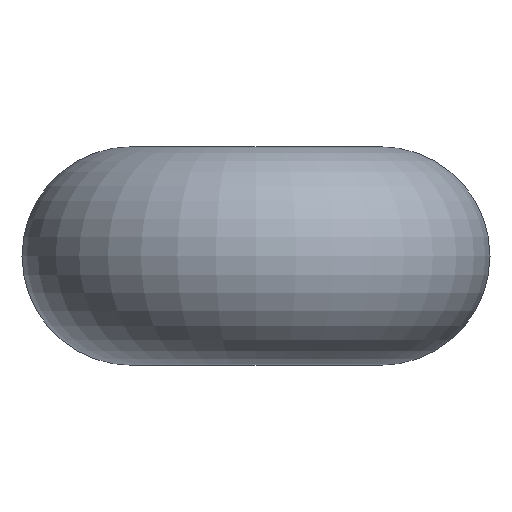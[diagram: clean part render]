
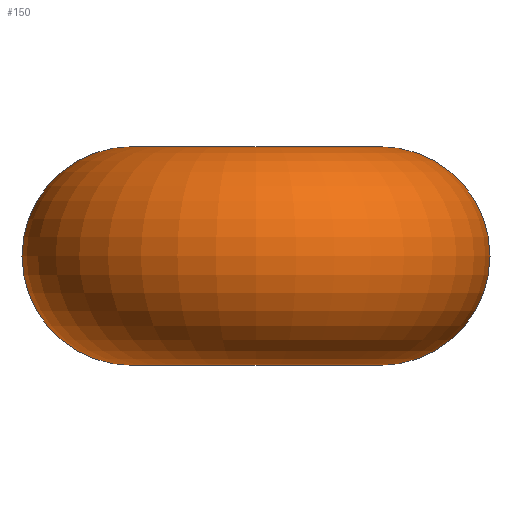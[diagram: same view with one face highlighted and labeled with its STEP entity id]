
A CAD part, left-side view. The second image highlights one B-rep face of the part: STEP entity #150.
In plain terms, the highlighted toroidal (fillet/blend) face has major radius 0.8 mm and minor radius 0.7 mm.
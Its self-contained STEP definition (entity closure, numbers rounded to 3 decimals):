
#5 = EDGE_CURVE ( 'NONE', #10, #6, #233, .T. ) ;
#6 = VERTEX_POINT ( 'NONE', #229 ) ;
#10 = VERTEX_POINT ( 'NONE', #281 ) ;
#12 = EDGE_CURVE ( 'NONE', #13, #30, #280, .T. ) ;
#13 = VERTEX_POINT ( 'NONE', #275 ) ;
#18 = ORIENTED_EDGE ( 'NONE', *, *, #19, .F. ) ;
#19 = EDGE_CURVE ( 'NONE', #6, #13, #270, .T. ) ;
#28 = EDGE_CURVE ( 'NONE', #29, #30, #73, .T. ) ;
#29 = VERTEX_POINT ( 'NONE', #64 ) ;
#30 = VERTEX_POINT ( 'NONE', #63 ) ;
#43 = VERTEX_POINT ( 'NONE', #94 ) ;
#63 = CARTESIAN_POINT ( 'NONE',  ( 0.588, -0.543, 0.7 ) ) ;
#64 = CARTESIAN_POINT ( 'NONE',  ( 1.102, -1.018, 0. ) ) ;
#65 = DIRECTION ( 'NONE',  ( 0., 0., -1. ) ) ;
#66 = DIRECTION ( 'NONE',  ( -0.679, -0.734, 0. ) ) ;
#67 = CARTESIAN_POINT ( 'NONE',  ( 0.588, -0.543, 0. ) ) ;
#68 = AXIS2_PLACEMENT_3D ( 'NONE', #67, #66, #65 ) ;
#73 = CIRCLE ( 'NONE', #68, 0.7 ) ;
#94 = CARTESIAN_POINT ( 'NONE',  ( 0.588, -0.543, -0.7 ) ) ;
#149 = EDGE_CURVE ( 'NONE', #10, #43, #310, .T. ) ;
#150 = ADVANCED_FACE ( 'NONE', ( #389 ), #388, .T. ) ;
#151 = EDGE_LOOP ( 'NONE', ( #251, #252, #253, #254, #255, #18 ) ) ;
#229 = CARTESIAN_POINT ( 'NONE',  ( 1.102, 1.018, 0. ) ) ;
#230 = DIRECTION ( 'NONE',  ( 0., 0., -1. ) ) ;
#231 = DIRECTION ( 'NONE',  ( 0.679, -0.734, 0. ) ) ;
#232 = AXIS2_PLACEMENT_3D ( 'NONE', #239, #231, #230 ) ;
#233 = CIRCLE ( 'NONE', #232, 0.7 ) ;
#239 = CARTESIAN_POINT ( 'NONE',  ( 0.588, 0.543, 0. ) ) ;
#251 = ORIENTED_EDGE ( 'NONE', *, *, #5, .F. ) ;
#252 = ORIENTED_EDGE ( 'NONE', *, *, #149, .T. ) ;
#253 = ORIENTED_EDGE ( 'NONE', *, *, #259, .T. ) ;
#254 = ORIENTED_EDGE ( 'NONE', *, *, #28, .T. ) ;
#255 = ORIENTED_EDGE ( 'NONE', *, *, #12, .F. ) ;
#259 = EDGE_CURVE ( 'NONE', #43, #29, #413, .T. ) ;
#266 = DIRECTION ( 'NONE',  ( 0., 0., -1. ) ) ;
#267 = DIRECTION ( 'NONE',  ( 0.679, -0.734, 0. ) ) ;
#268 = CARTESIAN_POINT ( 'NONE',  ( 0.588, 0.543, 0. ) ) ;
#269 = AXIS2_PLACEMENT_3D ( 'NONE', #268, #267, #266 ) ;
#270 = CIRCLE ( 'NONE', #269, 0.7 ) ;
#275 = CARTESIAN_POINT ( 'NONE',  ( 0.588, 0.543, 0.7 ) ) ;
#276 = DIRECTION ( 'NONE',  ( 1., 0., 0. ) ) ;
#277 = DIRECTION ( 'NONE',  ( 0., 0., 1. ) ) ;
#278 = CARTESIAN_POINT ( 'NONE',  ( 0., 0., 0.7 ) ) ;
#279 = AXIS2_PLACEMENT_3D ( 'NONE', #278, #277, #276 ) ;
#280 = CIRCLE ( 'NONE', #279, 0.8 ) ;
#281 = CARTESIAN_POINT ( 'NONE',  ( 0.588, 0.543, -0.7 ) ) ;
#304 = DIRECTION ( 'NONE',  ( 0., 0., 1. ) ) ;
#305 = CARTESIAN_POINT ( 'NONE',  ( 0., 0., -0.7 ) ) ;
#306 = AXIS2_PLACEMENT_3D ( 'NONE', #305, #304, #390 ) ;
#310 = CIRCLE ( 'NONE', #306, 0.8 ) ;
#383 = DIRECTION ( 'NONE',  ( 1., 0., 0. ) ) ;
#384 = DIRECTION ( 'NONE',  ( 0., 0., 1. ) ) ;
#385 = AXIS2_PLACEMENT_3D ( 'NONE', #387, #384, #383 ) ;
#387 = CARTESIAN_POINT ( 'NONE',  ( 0., 0., 0. ) ) ;
#388 = TOROIDAL_SURFACE ( 'NONE', #385, 0.8, 0.7 ) ;
#389 = FACE_OUTER_BOUND ( 'NONE', #151, .T. ) ;
#390 = DIRECTION ( 'NONE',  ( 1., 0., 0. ) ) ;
#409 = DIRECTION ( 'NONE',  ( 0., 0., -1. ) ) ;
#410 = DIRECTION ( 'NONE',  ( -0.679, -0.734, 0. ) ) ;
#411 = CARTESIAN_POINT ( 'NONE',  ( 0.588, -0.543, 0. ) ) ;
#412 = AXIS2_PLACEMENT_3D ( 'NONE', #411, #410, #409 ) ;
#413 = CIRCLE ( 'NONE', #412, 0.7 ) ;
